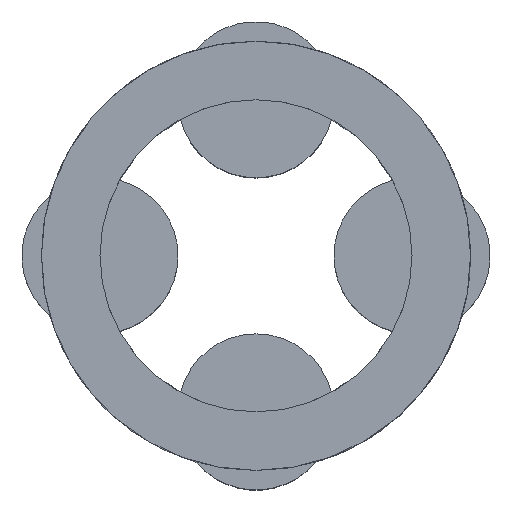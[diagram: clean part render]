
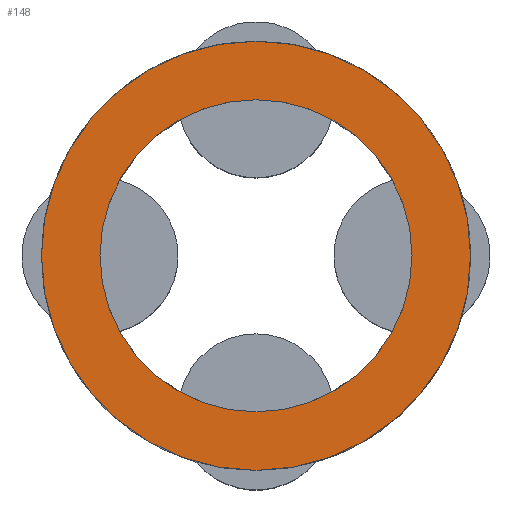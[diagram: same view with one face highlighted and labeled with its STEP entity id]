
A CAD part, top view. The second image highlights one B-rep face of the part: STEP entity #148.
In plain terms, the highlighted planar face has unit normal (0, 0, 1).
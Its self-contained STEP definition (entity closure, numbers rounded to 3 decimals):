
#103=PLANE('',#738);
#127=FACE_BOUND('',#245,.T.);
#128=FACE_BOUND('',#246,.T.);
#148=ADVANCED_FACE('',(#127,#128),#103,.T.);
#245=EDGE_LOOP('',(#375));
#246=EDGE_LOOP('',(#376));
#375=ORIENTED_EDGE('',*,*,#534,.F.);
#376=ORIENTED_EDGE('',*,*,#587,.T.);
#482=VERTEX_POINT('',#1040);
#527=VERTEX_POINT('',#1150);
#534=EDGE_CURVE('',#482,#482,#616,.T.);
#587=EDGE_CURVE('',#527,#527,#655,.T.);
#616=CIRCLE('',#686,4.);
#655=CIRCLE('',#737,5.5);
#686=AXIS2_PLACEMENT_3D('',#1039,#803,#804);
#737=AXIS2_PLACEMENT_3D('',#1149,#919,#920);
#738=AXIS2_PLACEMENT_3D('',#1151,#921,#922);
#803=DIRECTION('',(0.,0.,1.));
#804=DIRECTION('',(1.,0.,0.));
#919=DIRECTION('',(0.,0.,1.));
#920=DIRECTION('',(1.,0.,0.));
#921=DIRECTION('',(0.,0.,1.));
#922=DIRECTION('',(1.,0.,0.));
#1039=CARTESIAN_POINT('',(0.,0.,6.));
#1040=CARTESIAN_POINT('',(4.,0.,6.));
#1149=CARTESIAN_POINT('',(0.,0.,6.));
#1150=CARTESIAN_POINT('',(5.5,0.,6.));
#1151=CARTESIAN_POINT('',(0.,0.,6.));
